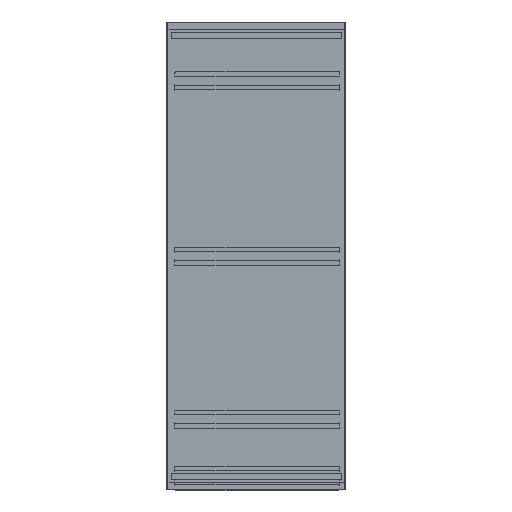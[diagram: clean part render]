
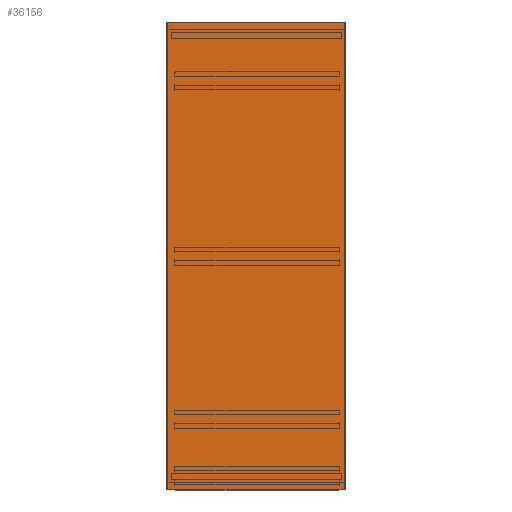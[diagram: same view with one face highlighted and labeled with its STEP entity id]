
A CAD part, left-side view. The second image highlights one B-rep face of the part: STEP entity #36156.
In plain terms, the highlighted planar face has unit normal (-1, 0, 0).
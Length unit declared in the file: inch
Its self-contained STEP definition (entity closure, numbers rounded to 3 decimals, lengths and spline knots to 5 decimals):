
#33563=DIRECTION('',(0.,1.,0.));
#33564=VECTOR('',#33563,65.25);
#33565=CARTESIAN_POINT('',(-0.06,-32.625,-12.371));
#33566=LINE('',#33565,#33564);
#33593=DIRECTION('',(0.,-1.,0.));
#33594=VECTOR('',#33593,65.25);
#33595=CARTESIAN_POINT('',(-0.06,32.625,12.371));
#33596=LINE('',#33595,#33594);
#34372=DIRECTION('',(0.,0.,-1.));
#34373=VECTOR('',#34372,24.742);
#34374=CARTESIAN_POINT('',(-0.06,32.625,12.371));
#34375=LINE('',#34374,#34373);
#34376=DIRECTION('',(0.,0.,1.));
#34377=VECTOR('',#34376,24.742);
#34378=CARTESIAN_POINT('',(-0.06,-32.625,-12.371));
#34379=LINE('',#34378,#34377);
#34592=CARTESIAN_POINT('',(-0.06,32.625,12.371));
#34593=CARTESIAN_POINT('',(-0.06,32.625,-12.371));
#34594=VERTEX_POINT('',#34592);
#34595=VERTEX_POINT('',#34593);
#34596=CARTESIAN_POINT('',(-0.06,-32.625,-12.371));
#34597=CARTESIAN_POINT('',(-0.06,-32.625,12.371));
#34598=VERTEX_POINT('',#34596);
#34599=VERTEX_POINT('',#34597);
#36145=CARTESIAN_POINT('',(-0.06,0.,0.));
#36146=DIRECTION('',(-1.,0.,0.));
#36147=DIRECTION('',(0.,0.,1.));
#36148=AXIS2_PLACEMENT_3D('',#36145,#36146,#36147);
#36149=PLANE('',#36148);
#36150=ORIENTED_EDGE('',*,*,#35045,.T.);
#36151=ORIENTED_EDGE('',*,*,#35073,.F.);
#36152=ORIENTED_EDGE('',*,*,#35103,.T.);
#36153=ORIENTED_EDGE('',*,*,#35659,.F.);
#36154=EDGE_LOOP('',(#36150,#36151,#36152,#36153));
#36155=FACE_OUTER_BOUND('',#36154,.F.);
#36156=ADVANCED_FACE('',(#36155),#36149,.T.);
#35045=EDGE_CURVE('',#34598,#34595,#33566,.T.);
#35073=EDGE_CURVE('',#34594,#34595,#34375,.T.);
#35103=EDGE_CURVE('',#34594,#34599,#33596,.T.);
#35659=EDGE_CURVE('',#34598,#34599,#34379,.T.);
